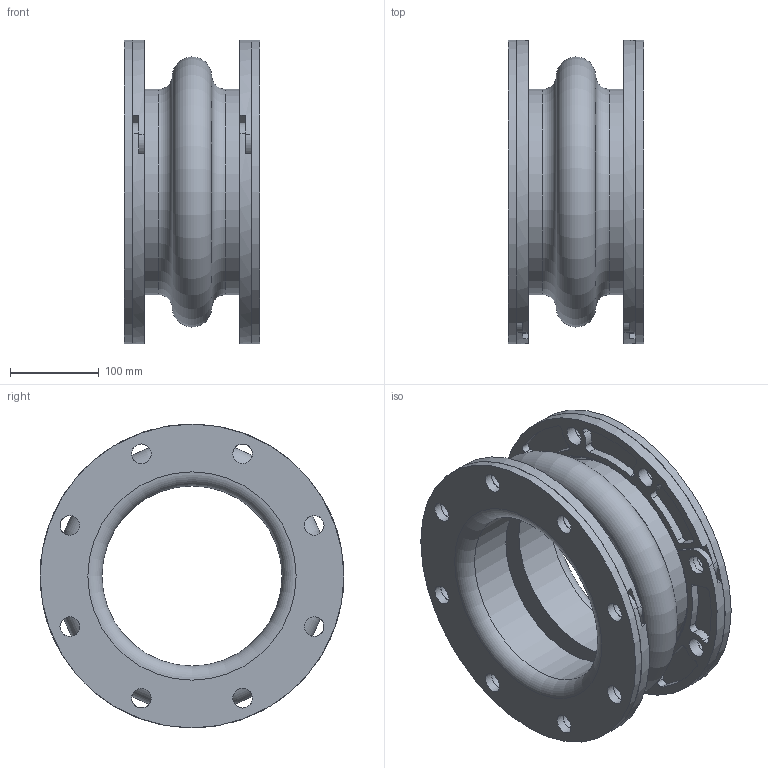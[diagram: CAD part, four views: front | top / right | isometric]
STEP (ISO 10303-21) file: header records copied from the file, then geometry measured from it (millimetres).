
FILE_DESCRIPTION(/* description */ (''),/* implementation_level */ '2;1');
FILE_NAME(/* name */ 'C:\001_Work\Designs\Mercer2014\MQInventor2014\RajR\500 Style\501\New folder\501 8IDx6FF.stp',/* time_stamp */ '2016-03-26T14:29:50-04:00',/* author */ ('rramoutar'),/* organization */ ('Mason Industries Inc.'),/* preprocessor_version */ 'ST-DEVELOPER v15.6',/* originating_system */ 'Autodesk Inventor 2015',/* authorisation */ '');
FILE_SCHEMA (('CONFIG_CONTROL_DESIGN'));
Length unit declared in the file: inch
Products named in the file (1): 501 8IDx6FF
Bounding box: 152.4 x 342.9 x 342.9 mm (x, y, z)
Volume: 3751593.9 mm3; surface area: 795444.9 mm2
Topology: 5 solids, 5 shells, 266 faces, 704 edges, 466 vertices
Faces by surface type: cylinder 186, plane 60, torus 16, cone 4
Full cylindrical faces by diameter (mm): 22.225 x36, 203.2 x2, 231.775 x2, 342.9 x2
Entity records: 8835 total; most frequent: CARTESIAN_POINT 1623, DIRECTION 1570, ORIENTED_EDGE 1292, AXIS2_PLACEMENT_3D 673, EDGE_CURVE 646, VERTEX_POINT 462, EDGE_LOOP 412, CIRCLE 406
